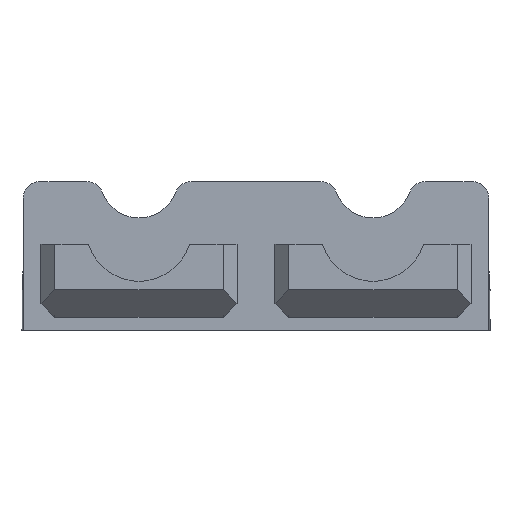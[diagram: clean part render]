
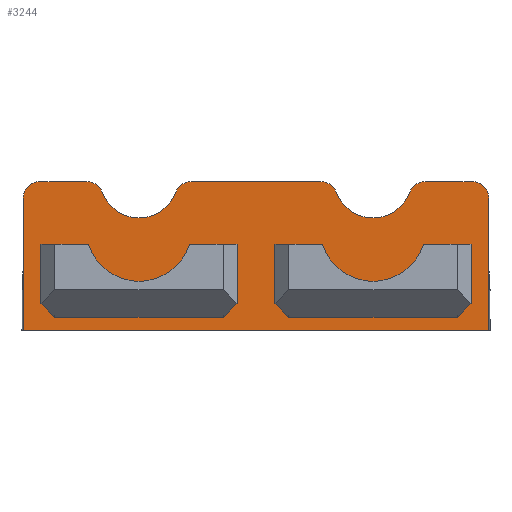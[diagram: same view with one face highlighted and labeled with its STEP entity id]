
A CAD part, left-side view. The second image highlights one B-rep face of the part: STEP entity #3244.
In plain terms, the highlighted planar face has unit normal (-1, 0, 0).
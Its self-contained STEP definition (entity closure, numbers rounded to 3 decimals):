
#63=FACE_BOUND('',#583,.T.);
#64=FACE_BOUND('',#584,.T.);
#157=PLANE('',#3592);
#357=FACE_OUTER_BOUND('',#582,.T.);
#582=EDGE_LOOP('',(#2829,#2830,#2831,#2832,#2833,#2834,#2835,#2836,#2837,
#2838,#2839,#2840,#2841,#2842));
#583=EDGE_LOOP('',(#2843,#2844,#2845,#2846,#2847,#2848));
#584=EDGE_LOOP('',(#2849,#2850,#2851,#2852,#2853,#2854));
#773=LINE('',#5140,#1090);
#864=LINE('',#5406,#1181);
#866=LINE('',#5410,#1183);
#867=LINE('',#5414,#1184);
#868=LINE('',#5422,#1185);
#869=LINE('',#5428,#1186);
#870=LINE('',#5431,#1187);
#871=LINE('',#5433,#1188);
#872=LINE('',#5437,#1189);
#873=LINE('',#5439,#1190);
#874=LINE('',#5440,#1191);
#875=LINE('',#5443,#1192);
#876=LINE('',#5445,#1193);
#877=LINE('',#5447,#1194);
#878=LINE('',#5449,#1195);
#879=LINE('',#5452,#1196);
#1090=VECTOR('',#4178,10.);
#1181=VECTOR('',#4481,10.);
#1183=VECTOR('',#4485,10.);
#1184=VECTOR('',#4488,10.);
#1185=VECTOR('',#4495,10.);
#1186=VECTOR('',#4502,10.);
#1187=VECTOR('',#4503,10.);
#1188=VECTOR('',#4504,10.);
#1189=VECTOR('',#4507,10.);
#1190=VECTOR('',#4508,10.);
#1191=VECTOR('',#4509,10.);
#1192=VECTOR('',#4510,10.);
#1193=VECTOR('',#4511,10.);
#1194=VECTOR('',#4512,10.);
#1195=VECTOR('',#4513,10.);
#1196=VECTOR('',#4516,10.);
#1378=CIRCLE('',#3590,3.);
#1379=CIRCLE('',#3593,3.);
#1380=CIRCLE('',#3594,3.);
#1381=CIRCLE('',#3595,7.);
#1382=CIRCLE('',#3596,3.);
#1383=CIRCLE('',#3597,3.);
#1384=CIRCLE('',#3598,7.);
#1385=CIRCLE('',#3599,3.);
#1386=CIRCLE('',#3600,9.5);
#1387=CIRCLE('',#3601,9.5);
#1534=VERTEX_POINT('',#5137);
#1535=VERTEX_POINT('',#5139);
#1602=VERTEX_POINT('',#5399);
#1603=VERTEX_POINT('',#5400);
#1604=VERTEX_POINT('',#5405);
#1605=VERTEX_POINT('',#5409);
#1606=VERTEX_POINT('',#5411);
#1607=VERTEX_POINT('',#5413);
#1608=VERTEX_POINT('',#5415);
#1609=VERTEX_POINT('',#5417);
#1610=VERTEX_POINT('',#5419);
#1611=VERTEX_POINT('',#5421);
#1612=VERTEX_POINT('',#5423);
#1613=VERTEX_POINT('',#5425);
#1614=VERTEX_POINT('',#5429);
#1615=VERTEX_POINT('',#5430);
#1616=VERTEX_POINT('',#5432);
#1617=VERTEX_POINT('',#5434);
#1618=VERTEX_POINT('',#5436);
#1619=VERTEX_POINT('',#5438);
#1620=VERTEX_POINT('',#5441);
#1621=VERTEX_POINT('',#5442);
#1622=VERTEX_POINT('',#5444);
#1623=VERTEX_POINT('',#5446);
#1624=VERTEX_POINT('',#5448);
#1625=VERTEX_POINT('',#5450);
#1890=EDGE_CURVE('',#1534,#1535,#773,.T.);
#2020=EDGE_CURVE('',#1602,#1603,#1378,.T.);
#2023=EDGE_CURVE('',#1604,#1603,#864,.T.);
#2025=EDGE_CURVE('',#1534,#1605,#866,.T.);
#2026=EDGE_CURVE('',#1606,#1605,#1379,.T.);
#2027=EDGE_CURVE('',#1606,#1607,#867,.T.);
#2028=EDGE_CURVE('',#1608,#1607,#1380,.T.);
#2029=EDGE_CURVE('',#1608,#1609,#1381,.T.);
#2030=EDGE_CURVE('',#1610,#1609,#1382,.T.);
#2031=EDGE_CURVE('',#1610,#1611,#868,.T.);
#2032=EDGE_CURVE('',#1612,#1611,#1383,.T.);
#2033=EDGE_CURVE('',#1612,#1613,#1384,.T.);
#2034=EDGE_CURVE('',#1604,#1613,#1385,.T.);
#2035=EDGE_CURVE('',#1602,#1535,#869,.T.);
#2036=EDGE_CURVE('',#1614,#1615,#870,.T.);
#2037=EDGE_CURVE('',#1615,#1616,#871,.T.);
#2038=EDGE_CURVE('',#1616,#1617,#1386,.T.);
#2039=EDGE_CURVE('',#1617,#1618,#872,.T.);
#2040=EDGE_CURVE('',#1618,#1619,#873,.T.);
#2041=EDGE_CURVE('',#1619,#1614,#874,.T.);
#2042=EDGE_CURVE('',#1620,#1621,#875,.T.);
#2043=EDGE_CURVE('',#1621,#1622,#876,.T.);
#2044=EDGE_CURVE('',#1622,#1623,#877,.T.);
#2045=EDGE_CURVE('',#1623,#1624,#878,.T.);
#2046=EDGE_CURVE('',#1624,#1625,#1387,.T.);
#2047=EDGE_CURVE('',#1625,#1620,#879,.T.);
#2829=ORIENTED_EDGE('',*,*,#2025,.T.);
#2830=ORIENTED_EDGE('',*,*,#2026,.F.);
#2831=ORIENTED_EDGE('',*,*,#2027,.T.);
#2832=ORIENTED_EDGE('',*,*,#2028,.F.);
#2833=ORIENTED_EDGE('',*,*,#2029,.T.);
#2834=ORIENTED_EDGE('',*,*,#2030,.F.);
#2835=ORIENTED_EDGE('',*,*,#2031,.T.);
#2836=ORIENTED_EDGE('',*,*,#2032,.F.);
#2837=ORIENTED_EDGE('',*,*,#2033,.T.);
#2838=ORIENTED_EDGE('',*,*,#2034,.F.);
#2839=ORIENTED_EDGE('',*,*,#2023,.T.);
#2840=ORIENTED_EDGE('',*,*,#2020,.F.);
#2841=ORIENTED_EDGE('',*,*,#2035,.T.);
#2842=ORIENTED_EDGE('',*,*,#1890,.F.);
#2843=ORIENTED_EDGE('',*,*,#2036,.T.);
#2844=ORIENTED_EDGE('',*,*,#2037,.T.);
#2845=ORIENTED_EDGE('',*,*,#2038,.T.);
#2846=ORIENTED_EDGE('',*,*,#2039,.T.);
#2847=ORIENTED_EDGE('',*,*,#2040,.T.);
#2848=ORIENTED_EDGE('',*,*,#2041,.T.);
#2849=ORIENTED_EDGE('',*,*,#2042,.T.);
#2850=ORIENTED_EDGE('',*,*,#2043,.T.);
#2851=ORIENTED_EDGE('',*,*,#2044,.T.);
#2852=ORIENTED_EDGE('',*,*,#2045,.T.);
#2853=ORIENTED_EDGE('',*,*,#2046,.T.);
#2854=ORIENTED_EDGE('',*,*,#2047,.T.);
#3244=ADVANCED_FACE('',(#357,#63,#64),#157,.F.);
#3590=AXIS2_PLACEMENT_3D('',#5401,#4475,#4476);
#3592=AXIS2_PLACEMENT_3D('',#5408,#4483,#4484);
#3593=AXIS2_PLACEMENT_3D('',#5412,#4486,#4487);
#3594=AXIS2_PLACEMENT_3D('',#5416,#4489,#4490);
#3595=AXIS2_PLACEMENT_3D('',#5418,#4491,#4492);
#3596=AXIS2_PLACEMENT_3D('',#5420,#4493,#4494);
#3597=AXIS2_PLACEMENT_3D('',#5424,#4496,#4497);
#3598=AXIS2_PLACEMENT_3D('',#5426,#4498,#4499);
#3599=AXIS2_PLACEMENT_3D('',#5427,#4500,#4501);
#3600=AXIS2_PLACEMENT_3D('',#5435,#4505,#4506);
#3601=AXIS2_PLACEMENT_3D('',#5451,#4514,#4515);
#4178=DIRECTION('',(0.,1.,0.));
#4475=DIRECTION('center_axis',(1.,0.,0.));
#4476=DIRECTION('ref_axis',(0.,0.707,0.707));
#4481=DIRECTION('',(0.,1.,0.));
#4483=DIRECTION('center_axis',(1.,0.,0.));
#4484=DIRECTION('ref_axis',(0.,1.,0.));
#4485=DIRECTION('',(0.,0.,1.));
#4486=DIRECTION('center_axis',(1.,0.,0.));
#4487=DIRECTION('ref_axis',(0.,-0.707,0.707));
#4488=DIRECTION('',(0.,1.,0.));
#4489=DIRECTION('center_axis',(1.,0.,0.));
#4490=DIRECTION('ref_axis',(0.,0.572,0.82));
#4491=DIRECTION('center_axis',(1.,0.,0.));
#4492=DIRECTION('ref_axis',(0.,1.,0.));
#4493=DIRECTION('center_axis',(1.,0.,0.));
#4494=DIRECTION('ref_axis',(0.,-0.572,0.82));
#4495=DIRECTION('',(0.,1.,0.));
#4496=DIRECTION('center_axis',(1.,0.,0.));
#4497=DIRECTION('ref_axis',(0.,0.572,0.82));
#4498=DIRECTION('center_axis',(1.,0.,0.));
#4499=DIRECTION('ref_axis',(0.,1.,0.));
#4500=DIRECTION('center_axis',(1.,0.,0.));
#4501=DIRECTION('ref_axis',(0.,-0.572,0.82));
#4502=DIRECTION('',(0.,0.,-1.));
#4503=DIRECTION('',(0.,0.,1.));
#4504=DIRECTION('',(0.,-1.,0.));
#4505=DIRECTION('center_axis',(-1.,0.,0.));
#4506=DIRECTION('ref_axis',(0.,1.,0.));
#4507=DIRECTION('',(0.,-1.,0.));
#4508=DIRECTION('',(0.,0.,-1.));
#4509=DIRECTION('',(0.,1.,0.));
#4510=DIRECTION('',(0.,0.,-1.));
#4511=DIRECTION('',(0.,1.,0.));
#4512=DIRECTION('',(0.,0.,1.));
#4513=DIRECTION('',(0.,-1.,0.));
#4514=DIRECTION('center_axis',(-1.,0.,0.));
#4515=DIRECTION('ref_axis',(0.,1.,0.));
#4516=DIRECTION('',(0.,-1.,0.));
#5137=CARTESIAN_POINT('',(96.15,-20.8,-174.478));
#5139=CARTESIAN_POINT('',(96.15,62.8,-174.478));
#5140=CARTESIAN_POINT('',(96.15,-20.8,-174.478));
#5399=CARTESIAN_POINT('',(96.15,62.8,-150.76));
#5400=CARTESIAN_POINT('',(96.15,59.8,-147.76));
#5401=CARTESIAN_POINT('Origin',(96.15,59.8,-150.76));
#5405=CARTESIAN_POINT('',(96.15,51.382,-147.76));
#5406=CARTESIAN_POINT('',(96.15,21.2,-147.76));
#5408=CARTESIAN_POINT('Origin',(96.15,0.,-159.942));
#5409=CARTESIAN_POINT('',(96.15,-20.8,-150.76));
#5410=CARTESIAN_POINT('',(96.15,-20.8,-153.851));
#5411=CARTESIAN_POINT('',(96.15,-17.8,-147.76));
#5412=CARTESIAN_POINT('Origin',(96.15,-17.8,-150.76));
#5413=CARTESIAN_POINT('',(96.15,-9.382,-147.76));
#5414=CARTESIAN_POINT('',(96.15,-20.8,-147.76));
#5415=CARTESIAN_POINT('',(96.15,-6.567,-149.722));
#5416=CARTESIAN_POINT('Origin',(96.15,-9.382,-150.76));
#5417=CARTESIAN_POINT('',(96.15,6.567,-149.722));
#5418=CARTESIAN_POINT('Origin',(96.15,0.,-147.298));
#5419=CARTESIAN_POINT('',(96.15,9.382,-147.76));
#5420=CARTESIAN_POINT('Origin',(96.15,9.382,-150.76));
#5421=CARTESIAN_POINT('',(96.15,32.618,-147.76));
#5422=CARTESIAN_POINT('',(96.15,21.2,-147.76));
#5423=CARTESIAN_POINT('',(96.15,35.433,-149.722));
#5424=CARTESIAN_POINT('Origin',(96.15,32.618,-150.76));
#5425=CARTESIAN_POINT('',(96.15,48.567,-149.722));
#5426=CARTESIAN_POINT('Origin',(96.15,42.,-147.298));
#5427=CARTESIAN_POINT('Origin',(96.15,51.382,-150.76));
#5428=CARTESIAN_POINT('',(96.15,62.8,-166.033));
#5429=CARTESIAN_POINT('',(96.15,15.1,-172.15));
#5430=CARTESIAN_POINT('',(96.15,15.1,-159.));
#5431=CARTESIAN_POINT('',(96.15,15.1,-166.046));
#5432=CARTESIAN_POINT('',(96.15,9.062,-159.));
#5433=CARTESIAN_POINT('',(96.15,0.,-159.));
#5434=CARTESIAN_POINT('',(96.15,-9.062,-159.));
#5435=CARTESIAN_POINT('Origin',(96.15,0.,-156.15));
#5436=CARTESIAN_POINT('',(96.15,-15.1,-159.));
#5437=CARTESIAN_POINT('',(96.15,0.,-159.));
#5438=CARTESIAN_POINT('',(96.15,-15.1,-172.15));
#5439=CARTESIAN_POINT('',(96.15,-15.1,-160.));
#5440=CARTESIAN_POINT('',(96.15,0.,-172.15));
#5441=CARTESIAN_POINT('',(96.15,26.9,-159.));
#5442=CARTESIAN_POINT('',(96.15,26.9,-172.15));
#5443=CARTESIAN_POINT('',(96.15,26.9,-160.));
#5444=CARTESIAN_POINT('',(96.15,57.1,-172.15));
#5445=CARTESIAN_POINT('',(96.15,42.,-172.15));
#5446=CARTESIAN_POINT('',(96.15,57.1,-159.));
#5447=CARTESIAN_POINT('',(96.15,57.1,-166.046));
#5448=CARTESIAN_POINT('',(96.15,51.062,-159.));
#5449=CARTESIAN_POINT('',(96.15,42.,-159.));
#5450=CARTESIAN_POINT('',(96.15,32.938,-159.));
#5451=CARTESIAN_POINT('Origin',(96.15,42.,-156.15));
#5452=CARTESIAN_POINT('',(96.15,42.,-159.));
